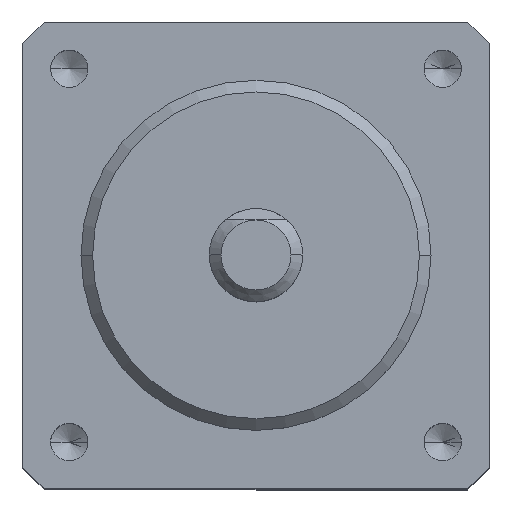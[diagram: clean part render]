
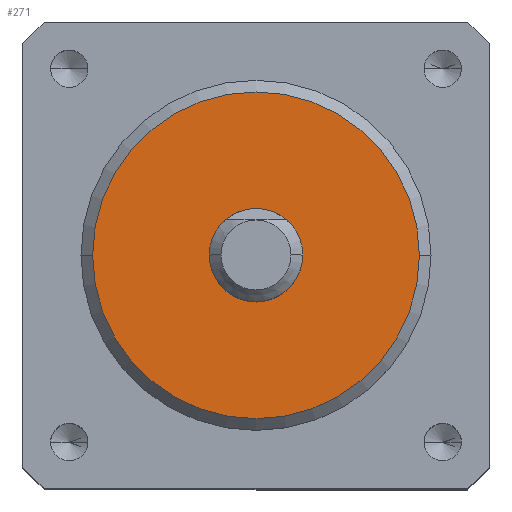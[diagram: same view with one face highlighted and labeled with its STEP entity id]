
A CAD part, top view. The second image highlights one B-rep face of the part: STEP entity #271.
In plain terms, the highlighted planar face has unit normal (0, 0, 1).
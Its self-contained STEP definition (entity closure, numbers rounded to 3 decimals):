
#14 = CIRCLE ( 'NONE', #3150, 2. ) ;
#132 = DIRECTION ( 'NONE',  ( 1., 0., 0. ) ) ;
#157 = CARTESIAN_POINT ( 'NONE',  ( 0., 0., 1.5 ) ) ;
#186 = EDGE_LOOP ( 'NONE', ( #2509, #2361 ) ) ;
#210 = EDGE_CURVE ( 'NONE', #1445, #2216, #14, .T. ) ;
#224 = CARTESIAN_POINT ( 'NONE',  ( 7., 0., 1.5 ) ) ;
#231 = AXIS2_PLACEMENT_3D ( 'NONE', #3094, #1640, #132 ) ;
#259 = DIRECTION ( 'NONE',  ( 1., 0., 0. ) ) ;
#271 = ADVANCED_FACE ( 'NONE', ( #966, #3003 ), #2905, .T. ) ;
#337 = AXIS2_PLACEMENT_3D ( 'NONE', #1896, #381, #2153 ) ;
#381 = DIRECTION ( 'NONE',  ( 0., 0., 1. ) ) ;
#566 = EDGE_LOOP ( 'NONE', ( #782, #764 ) ) ;
#764 = ORIENTED_EDGE ( 'NONE', *, *, #210, .T. ) ;
#782 = ORIENTED_EDGE ( 'NONE', *, *, #2577, .T. ) ;
#891 = VERTEX_POINT ( 'NONE', #224 ) ;
#966 = FACE_OUTER_BOUND ( 'NONE', #186, .T. ) ;
#1218 = CIRCLE ( 'NONE', #231, 7. ) ;
#1220 = CARTESIAN_POINT ( 'NONE',  ( -7., 0., 1.5 ) ) ;
#1295 = AXIS2_PLACEMENT_3D ( 'NONE', #3152, #2466, #2438 ) ;
#1445 = VERTEX_POINT ( 'NONE', #2308 ) ;
#1465 = CIRCLE ( 'NONE', #3164, 2. ) ;
#1633 = EDGE_CURVE ( 'NONE', #891, #2290, #1218, .T. ) ;
#1640 = DIRECTION ( 'NONE',  ( 0., 0., 1. ) ) ;
#1800 = EDGE_CURVE ( 'NONE', #2290, #891, #2498, .T. ) ;
#1896 = CARTESIAN_POINT ( 'NONE',  ( 0., 0., 1.5 ) ) ;
#2153 = DIRECTION ( 'NONE',  ( 1., 0., 0. ) ) ;
#2155 = CARTESIAN_POINT ( 'NONE',  ( -2., 0., 1.5 ) ) ;
#2216 = VERTEX_POINT ( 'NONE', #2155 ) ;
#2290 = VERTEX_POINT ( 'NONE', #1220 ) ;
#2308 = CARTESIAN_POINT ( 'NONE',  ( 2., 0., 1.5 ) ) ;
#2361 = ORIENTED_EDGE ( 'NONE', *, *, #1633, .T. ) ;
#2438 = DIRECTION ( 'NONE',  ( 1., 0., 0. ) ) ;
#2466 = DIRECTION ( 'NONE',  ( 0., 0., 1. ) ) ;
#2498 = CIRCLE ( 'NONE', #337, 7. ) ;
#2509 = ORIENTED_EDGE ( 'NONE', *, *, #1800, .T. ) ;
#2577 = EDGE_CURVE ( 'NONE', #2216, #1445, #1465, .T. ) ;
#2646 = DIRECTION ( 'NONE',  ( 0., 0., -1. ) ) ;
#2733 = DIRECTION ( 'NONE',  ( 1., 0., 0. ) ) ;
#2905 = PLANE ( 'NONE',  #1295 ) ;
#3003 = FACE_BOUND ( 'NONE', #566, .T. ) ;
#3094 = CARTESIAN_POINT ( 'NONE',  ( 0., 0., 1.5 ) ) ;
#3150 = AXIS2_PLACEMENT_3D ( 'NONE', #3192, #3184, #2733 ) ;
#3152 = CARTESIAN_POINT ( 'NONE',  ( 0., 0., 1.5 ) ) ;
#3164 = AXIS2_PLACEMENT_3D ( 'NONE', #157, #2646, #259 ) ;
#3184 = DIRECTION ( 'NONE',  ( 0., 0., -1. ) ) ;
#3192 = CARTESIAN_POINT ( 'NONE',  ( 0., 0., 1.5 ) ) ;
